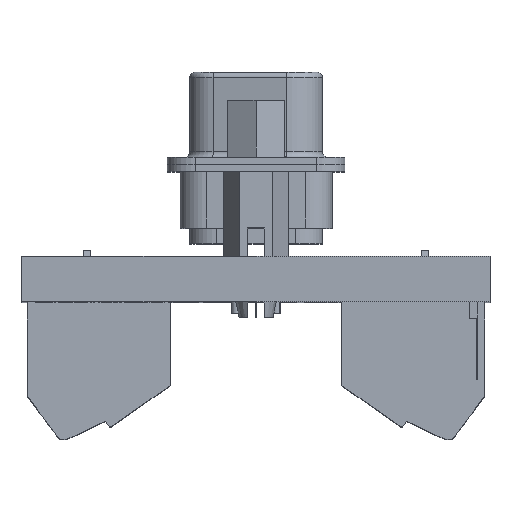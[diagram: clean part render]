
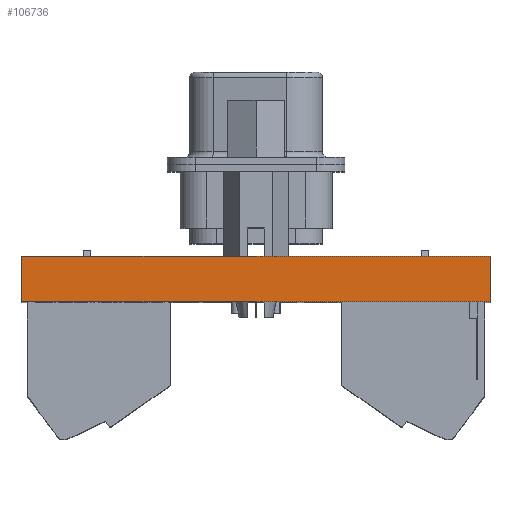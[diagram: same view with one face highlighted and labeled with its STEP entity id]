
A CAD part, top view. The second image highlights one B-rep face of the part: STEP entity #106736.
In plain terms, the highlighted planar face has unit normal (0, 0, 1).
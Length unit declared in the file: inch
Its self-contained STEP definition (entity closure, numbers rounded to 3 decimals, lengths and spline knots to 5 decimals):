
#437 = FACE_OUTER_BOUND ( 'NONE', #40100, .T. ) ;
#5025 = VECTOR ( 'NONE', #118656, 39.37008 ) ;
#5894 = LINE ( 'NONE', #105713, #106844 ) ;
#9102 = ORIENTED_EDGE ( 'NONE', *, *, #102172, .F. ) ;
#13663 = CARTESIAN_POINT ( 'NONE',  ( 0., -0.126, -2.424 ) ) ;
#15511 = VERTEX_POINT ( 'NONE', #85712 ) ;
#20874 = CARTESIAN_POINT ( 'NONE',  ( 0., 0., -2.424 ) ) ;
#21188 = DIRECTION ( 'NONE',  ( 0., 1., 0. ) ) ;
#23333 = VECTOR ( 'NONE', #21188, 39.37008 ) ;
#27990 = EDGE_CURVE ( 'NONE', #15511, #98322, #5894, .T. ) ;
#32885 = CARTESIAN_POINT ( 'NONE',  ( 16.445, -0.126, -2.424 ) ) ;
#34794 = DIRECTION ( 'NONE',  ( 0., 0., 1. ) ) ;
#40100 = EDGE_LOOP ( 'NONE', ( #53829, #9102, #100861, #107550 ) ) ;
#52403 = VERTEX_POINT ( 'NONE', #32885 ) ;
#53829 = ORIENTED_EDGE ( 'NONE', *, *, #139267, .F. ) ;
#55957 = CARTESIAN_POINT ( 'NONE',  ( 0., -0.126, -2.424 ) ) ;
#63649 = LINE ( 'NONE', #65362, #23333 ) ;
#63773 = VERTEX_POINT ( 'NONE', #132039 ) ;
#65362 = CARTESIAN_POINT ( 'NONE',  ( 16.445, -0.126, -2.424 ) ) ;
#66272 = DIRECTION ( 'NONE',  ( 1., 0., 0. ) ) ;
#76046 = DIRECTION ( 'NONE',  ( 0., 1., 0. ) ) ;
#85712 = CARTESIAN_POINT ( 'NONE',  ( 17.745, -0.126, -2.424 ) ) ;
#86724 = AXIS2_PLACEMENT_3D ( 'NONE', #55957, #34794, #66272 ) ;
#87057 = PLANE ( 'NONE',  #86724 ) ;
#88483 = DIRECTION ( 'NONE',  ( 1., 0., 0. ) ) ;
#98322 = VERTEX_POINT ( 'NONE', #134935 ) ;
#100861 = ORIENTED_EDGE ( 'NONE', *, *, #130844, .T. ) ;
#102172 = EDGE_CURVE ( 'NONE', #52403, #63773, #63649, .T. ) ;
#105713 = CARTESIAN_POINT ( 'NONE',  ( 17.745, -0.126, -2.424 ) ) ;
#106674 = VECTOR ( 'NONE', #88483, 39.37008 ) ;
#106736 = ADVANCED_FACE ( 'NONE', ( #437 ), #87057, .T. ) ;
#106844 = VECTOR ( 'NONE', #76046, 39.37008 ) ;
#107550 = ORIENTED_EDGE ( 'NONE', *, *, #27990, .T. ) ;
#114994 = LINE ( 'NONE', #13663, #106674 ) ;
#118656 = DIRECTION ( 'NONE',  ( 1., 0., 0. ) ) ;
#119429 = LINE ( 'NONE', #20874, #5025 ) ;
#130844 = EDGE_CURVE ( 'NONE', #52403, #15511, #114994, .T. ) ;
#132039 = CARTESIAN_POINT ( 'NONE',  ( 16.445, 0., -2.424 ) ) ;
#134935 = CARTESIAN_POINT ( 'NONE',  ( 17.745, 0., -2.424 ) ) ;
#139267 = EDGE_CURVE ( 'NONE', #63773, #98322, #119429, .T. ) ;
